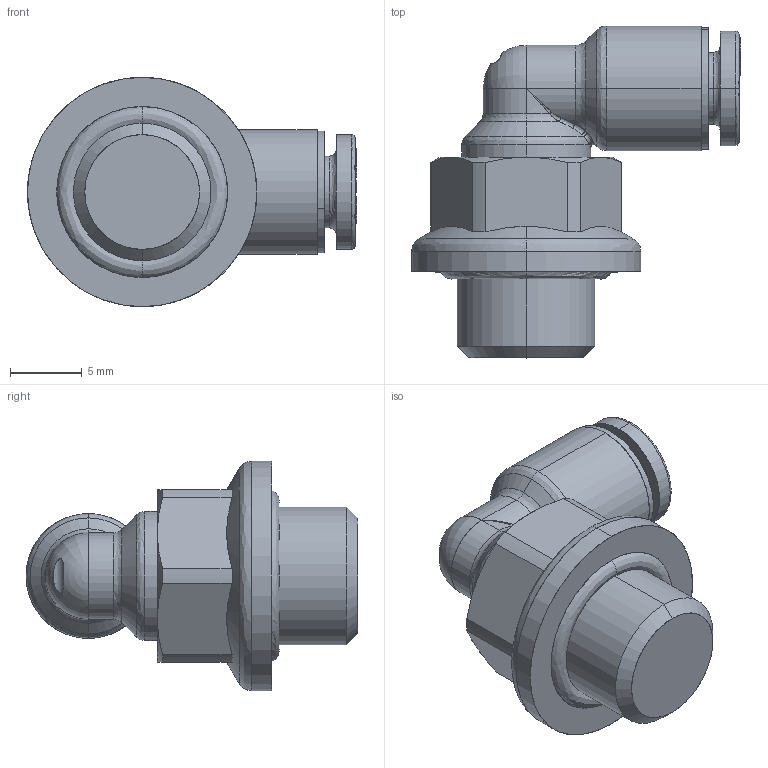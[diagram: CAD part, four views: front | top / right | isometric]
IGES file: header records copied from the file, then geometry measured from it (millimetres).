
Start section: SolidWorks IGES file using analytic representation for surfaces
Global section: file name: K:\Disegni Esecutivi\SERIE 54000\54000-Assiemi\54116\IGES\5411600004A.IGS; native system: SolidWorks 2020; preprocessor: SolidWorks 2020; author: CAD13; date: 240919.161504; units: millimetre
Bounding box: 22.95 x 23.15 x 16 mm (x, y, z)
Surface area: 1557.2 mm2 (no closed solid volume)
Topology: 0 solids, 0 shells, 298 faces, 2346 edges, 2343 vertices
Faces by surface type: bspline 245, revolution 53
